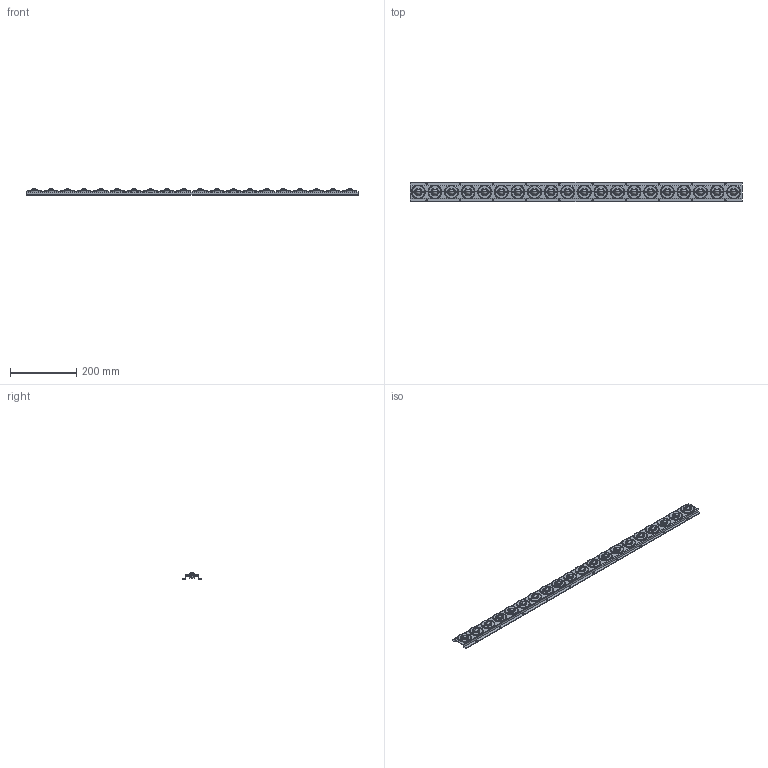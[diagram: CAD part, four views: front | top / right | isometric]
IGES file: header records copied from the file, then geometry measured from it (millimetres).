
Global section: file name: E:\UnigraphicsGraphicData\MISUMI_PRESS-PARTS\IGES\3d_goro-20_03808_r00.igs; native system: NX V5.0; preprocessor: UGS NX IGES V5.0; author: MISUMI; date: 20110105.160726; units: millimetre
Bounding box: 1000 x 59 x 21 mm (x, y, z)
Surface area: 174700.8 mm2 (no closed solid volume)
Topology: 0 solids, 0 shells, 504 faces, 4060 edges, 3980 vertices
Faces by surface type: bspline 504
